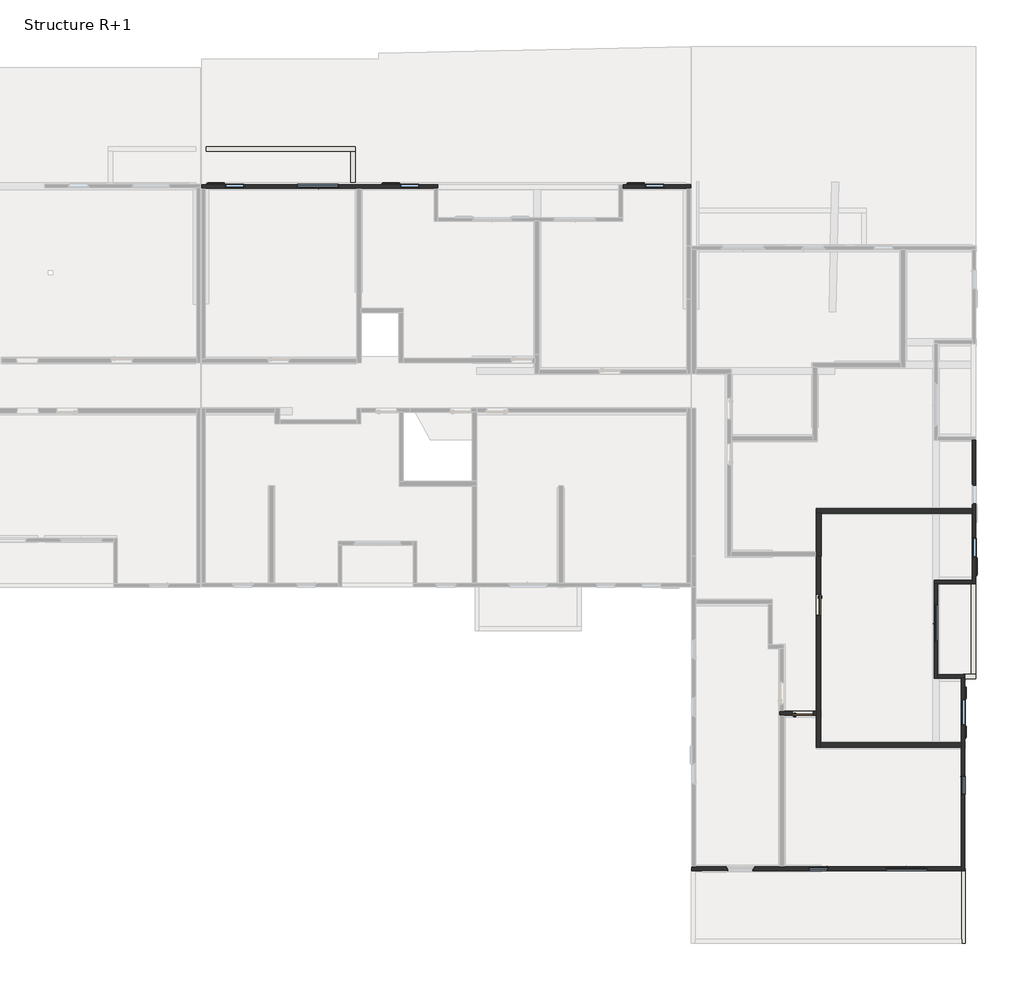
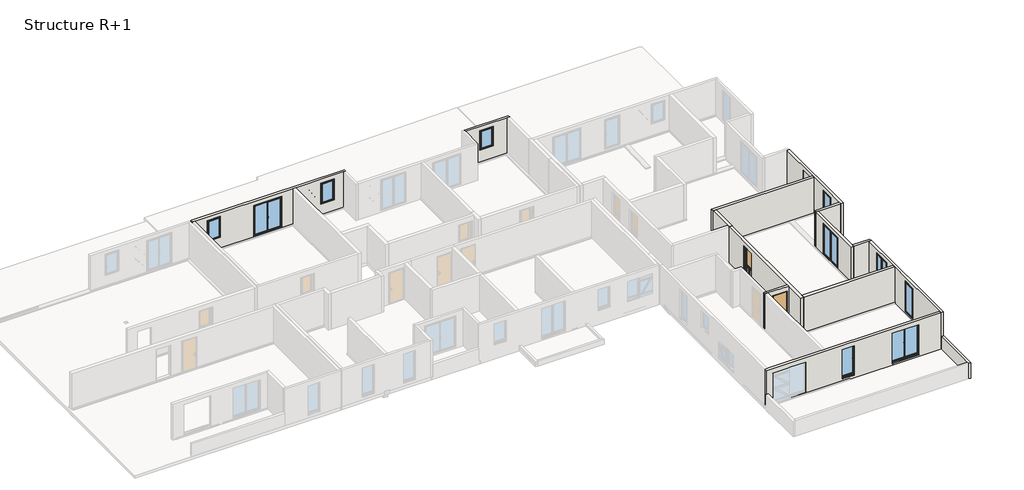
# One storey, part 7 of 11: 18 walls, 10 windows, 2 doors.
"""IFC4 building model written with IfcOpenShell, lengths in millimetres."""

from ifc_helpers import new_model, si_unit, frame, origin, place, context, project, spatial, polyline, outline, extrude, faceted_brep, transform, mapped, element, save
from components import door_d45fdbb8, door_280daffa, window_6b6e24a2, window_f6eb430b, window_2f04f91e, window_595b25a0, window_0_80m_x_2_05m_30132c93, window_0_80m_x_2_15m_73fb6ae2, window_1_60m_x_2_15m_1bfb613b, window_1_80m_x_2_15m_7d3a4370

model = new_model("IFC4")

# Units and contexts
model_context = context("Model", 3, world=origin())
ifc_project = project(units=[si_unit("LENGTHUNIT", "METRE", prefix="MILLI")], contexts=[model_context])

# Site, building, storey
site = spatial("IfcSite", under=ifc_project)
building = spatial("IfcBuilding", under=site)
storey = spatial("IfcBuildingStorey", under=building, Name="Structure R+1", Elevation=3320.0)

# Doors
placement = place(None, origin())
door_shape = door_d45fdbb8(model_context)
element("IfcDoor", 1, ObjectType="Entrée (avec angle d'ouverture) : PP Avec moulures (0.90 m x 2.15 m)", at=placement, inside=storey, context=model_context, shape_type="MappedRepresentation", body=[
    mapped(door_shape, transform((64210.298274, 8915.43291, 3320.0), x_axis=(1.0, 0.0, 0.0), y_axis=(0.0, 1.0, 0.0), z_axis=(0.0, 0.0, 1.0))),
])
door_2_shape = door_280daffa(model_context)
element("IfcDoor", 2, ObjectType="Entrée (avec angle d'ouverture) : PP Avec moulures (0.90 m x 2.15 m)", at=placement, inside=storey, context=model_context, shape_type="MappedRepresentation", body=[
    mapped(door_2_shape, transform((64902.3590475, 13654.7381719, 3320.0), x_axis=(0.0, -1.0, 0.0), y_axis=(1.0, 0.0, 0.0), z_axis=(0.0, 0.0, 1.0))),
])

# Walls
element("IfcWall", 3, ObjectType="Ext. Voile BA 16 + 2 + 2", at=placement, inside=storey, context=model_context, shape_type="Brep", body=[
    faceted_brep([(71177.0281909, -1157.3118451, 4130.0), (71177.0281909, -997.3118451, 4130.0), (71177.0281909, 2024.0269927, 4130.0), (71177.0281909, 2024.0269927, 3230.0), (71177.0281909, -997.3118451, 3230.0), (71177.0281909, -1137.3140034, 3230.0), (71177.0281909, -1137.3140034, 3030.0), (71177.0281909, -1157.3118451, 3030.0), (71337.0281909, -1157.3118451, 3030.0), (71337.0281909, 2104.0269927, 3030.0), (71337.0281909, 2104.0269927, 3230.0), (71337.0281909, 2024.0269927, 3230.0), (71337.0281909, 2024.0269927, 4130.0), (71337.0281909, -1157.3118451, 4130.0), (71317.0236897, -1137.3140034, 3030.0), (71317.0236897, 2104.0269927, 3030.0), (71317.0236897, 2024.0269927, 3230.0), (71317.0236897, -1137.3140034, 3230.0), (71317.0236897, 2104.0269927, 3230.0)], [[[0, 1, 2, 3, 4, 5, 6, 7]], [[8, 9, 10, 11, 12, 13]], [[9, 8, 7, 6, 14, 15]], [[2, 1, 0, 13, 12]], [[0, 7, 8, 13]], [[16, 17, 5, 4, 3]], [[14, 17, 16, 18, 15]], [[17, 14, 6, 5]], [[10, 9, 15, 18]], [[11, 10, 18, 16]], [[2, 12, 11, 16, 3]]]),
])
element("IfcWall", 4, ObjectType="Ext. Voile BA 16 + Isolant 120", at=placement, inside=storey, context=model_context, shape_type="Brep", body=[
    faceted_brep([(37868.7313075, 31927.4960094, 5830.0), (37868.7313075, 31927.4960094, 3230.0), (38028.7313075, 31927.4960094, 3230.0), (44657.3927707, 31927.4960094, 3230.0), (44857.3927707, 31927.4960094, 3230.0), (48060.3941376, 31927.4960094, 3230.0), (48220.3941376, 31927.4960094, 3230.0), (48220.3941376, 31927.4960094, 5830.0), (48140.3941376, 31927.4960094, 5830.0), (48060.3941376, 31927.4960094, 5830.0), (44857.3927707, 31927.4960094, 5830.0), (44657.3927707, 31927.4960094, 5830.0), (38028.7313075, 31927.4960094, 5830.0), (37888.6832806, 31927.4960094, 5830.0), (43907.3927707, 31927.4960094, 3355.0), (42007.3927707, 31927.4960094, 3355.0), (42007.3927707, 31927.4960094, 5555.0), (43907.3927707, 31927.4960094, 5555.0), (39769.4832806, 31927.4960094, 4055.0), (38869.4832806, 31927.4960094, 4055.0), (38869.4832806, 31927.4960094, 5555.0), (39769.4832806, 31927.4960094, 5555.0), (47440.760924, 31927.4960094, 4055.0), (46540.760924, 31927.4960094, 4055.0), (46540.760924, 31927.4960094, 5555.0), (47440.760924, 31927.4960094, 5555.0), (37868.7313075, 32087.4960094, 3230.0), (37868.7313075, 32087.4960094, 3330.0), (37868.7313075, 32087.4960094, 5830.0), (37888.6832806, 32087.4960094, 5830.0), (48140.3941376, 32087.4960094, 5830.0), (48220.3941376, 32087.4960094, 5830.0), (48220.3941376, 32087.4960094, 3380.0), (48220.3941376, 32087.4960094, 3230.0), (42057.3927707, 32087.4960094, 5505.0), (42057.3927707, 32087.4960094, 3346.5916612), (43857.3927707, 32087.4960094, 3346.5916612), (43857.3927707, 32087.4960094, 5505.0), (39719.4832806, 32087.4960094, 3975.0), (39719.4832806, 32087.4960094, 5505.0), (38919.4832806, 32087.4960094, 5505.0), (38919.4832806, 32087.4960094, 3975.0), (47390.760924, 32087.4960094, 3975.0), (47390.760924, 32087.4960094, 5505.0), (46590.760924, 32087.4960094, 5505.0), (46590.760924, 32087.4960094, 3975.0), (42057.3927707, 32007.4960094, 3355.0), (42057.3927707, 32027.4960094, 5505.0), (42057.3927707, 32027.4960094, 3355.0), (43857.3927707, 32007.4960094, 3355.0), (43857.3927707, 32027.4960094, 3355.0), (43857.3927707, 32027.4960094, 5505.0), (42047.3927707, 32027.4960094, 3355.0), (42047.3927707, 31977.4960094, 3355.0), (42007.3927707, 31977.4960094, 3355.0), (43907.3927707, 31977.4960094, 3355.0), (43867.3927707, 31977.4960094, 3355.0), (43867.3927707, 32027.4960094, 3355.0), (42007.3927707, 31977.4960094, 5555.0), (42047.3927707, 31977.4960094, 5515.0), (43867.3927707, 31977.4960094, 5515.0), (43907.3927707, 31977.4960094, 5555.0), (42047.3927707, 32027.4960094, 5515.0), (43867.3927707, 32027.4960094, 5515.0), (39719.4832806, 32007.4960094, 4055.0), (39719.4832806, 32027.4960094, 4055.0), (39719.4832806, 32027.4960094, 5505.0), (39719.4832806, 32007.4960094, 3975.0), (38919.4832806, 32007.4960094, 3975.0), (38919.4832806, 32027.4960094, 5505.0), (38919.4832806, 32027.4960094, 4055.0), (38919.4832806, 32007.4960094, 4055.0), (38909.4832806, 32027.4960094, 4055.0), (38909.4832806, 31977.4960094, 4055.0), (38869.4832806, 31977.4960094, 4055.0), (39769.4832806, 31977.4960094, 4055.0), (39729.4832806, 31977.4960094, 4055.0), (39729.4832806, 32027.4960094, 4055.0), (39769.4832806, 31977.4960094, 5555.0), (38869.4832806, 31977.4960094, 5555.0), (38909.4832806, 31977.4960094, 5515.0), (39729.4832806, 31977.4960094, 5515.0), (39729.4832806, 32027.4960094, 5515.0), (38909.4832806, 32027.4960094, 5515.0), (47390.760924, 32007.4960094, 4055.0), (47390.760924, 32027.4960094, 4055.0), (47390.760924, 32027.4960094, 5505.0), (47390.760924, 32007.4960094, 3975.0), (46590.760924, 32007.4960094, 3975.0), (46590.760924, 32027.4960094, 5505.0), (46590.760924, 32027.4960094, 4055.0), (46590.760924, 32007.4960094, 4055.0), (46580.760924, 32027.4960094, 4055.0), (46580.760924, 31977.4960094, 4055.0), (46540.760924, 31977.4960094, 4055.0), (47440.760924, 31977.4960094, 4055.0), (47400.760924, 31977.4960094, 4055.0), (47400.760924, 32027.4960094, 4055.0), (47440.760924, 31977.4960094, 5555.0), (46540.760924, 31977.4960094, 5555.0), (46580.760924, 31977.4960094, 5515.0), (47400.760924, 31977.4960094, 5515.0), (47400.760924, 32027.4960094, 5515.0), (46580.760924, 32027.4960094, 5515.0)], [[[0, 1, 2, 3, 4, 5, 6, 7, 8, 9, 10, 11, 12, 13], [14, 15, 16, 17], [18, 19, 20, 21], [22, 23, 24, 25]], [[26, 27, 28, 29, 30, 31, 32, 33], [34, 35, 36, 37], [38, 39, 40, 41], [42, 43, 44, 45]], [[6, 5, 4, 3, 2, 1, 26, 33]], [[0, 13, 12, 11, 10, 9, 8, 7, 31, 30, 29, 28]], [[46, 35, 34, 47, 48]], [[36, 49, 50, 51, 37]], [[46, 49, 36, 35]], [[34, 37, 51, 47]], [[49, 46, 48, 52, 53, 54, 15, 14, 55, 56, 57, 50]], [[15, 54, 58, 16]], [[54, 53, 59, 60, 56, 55, 61, 58]], [[53, 52, 62, 59]], [[52, 48, 47, 51, 50, 57, 63, 62]], [[16, 58, 61, 17]], [[60, 59, 62, 63]], [[61, 55, 14, 17]], [[56, 60, 63, 57]], [[64, 65, 66, 39, 38, 67]], [[68, 41, 40, 69, 70, 71]], [[67, 38, 41, 68]], [[67, 68, 71, 64]], [[39, 66, 69, 40]], [[71, 70, 72, 73, 74, 19, 18, 75, 76, 77, 65, 64]], [[18, 21, 78, 75]], [[75, 78, 79, 74, 73, 80, 81, 76]], [[76, 81, 82, 77]], [[77, 82, 83, 72, 70, 69, 66, 65]], [[21, 20, 79, 78]], [[80, 83, 82, 81]], [[79, 20, 19, 74]], [[73, 72, 83, 80]], [[84, 85, 86, 43, 42, 87]], [[88, 45, 44, 89, 90, 91]], [[87, 42, 45, 88]], [[87, 88, 91, 84]], [[43, 86, 89, 44]], [[91, 90, 92, 93, 94, 23, 22, 95, 96, 97, 85, 84]], [[22, 25, 98, 95]], [[95, 98, 99, 94, 93, 100, 101, 96]], [[96, 101, 102, 97]], [[97, 102, 103, 92, 90, 89, 86, 85]], [[25, 24, 99, 98]], [[100, 103, 102, 101]], [[99, 24, 23, 94]], [[93, 92, 103, 100]], [[0, 28, 27, 26, 1]], [[6, 33, 32, 31, 7]]]),
])
element("IfcWall", 5, ObjectType="Ext. Voile BA 16 + Isolant 120", at=placement, inside=storey, context=model_context, shape_type="Brep", body=[
    faceted_brep([(56314.3903552, 31927.496363, 5830.0), (56314.3903552, 31927.496363, 3320.0), (56314.3903552, 31927.496363, 3230.0), (59132.9661689, 31927.496363, 3230.0), (59292.9661689, 31927.496363, 3230.0), (59292.9661689, 31927.496363, 5830.0), (59132.9661689, 31927.496363, 5830.0), (58173.6782621, 31927.496363, 4155.0), (57273.6782621, 31927.496363, 4155.0), (57273.6782621, 31927.496363, 5555.0), (58173.6782621, 31927.496363, 5555.0), (56314.3903552, 32087.496363, 3230.0), (56314.3903552, 32087.496363, 5830.0), (59292.9661689, 32087.496363, 5830.0), (59292.9661689, 32087.496363, 3230.0), (58123.6782621, 32087.496363, 4075.0), (58123.6782621, 32087.496363, 5505.0), (57323.6782621, 32087.496363, 5505.0), (57323.6782621, 32087.496363, 4075.0), (58123.6782621, 32007.496363, 4155.0), (58123.6782621, 32027.496363, 4155.0), (58123.6782621, 32027.496363, 5505.0), (58123.6782621, 32007.496363, 4075.0), (57323.6782621, 32007.496363, 4075.0), (57323.6782621, 32027.496363, 5505.0), (57323.6782621, 32027.496363, 4155.0), (57323.6782621, 32007.496363, 4155.0), (57313.6782621, 32027.496363, 4155.0), (57313.6782621, 31977.496363, 4155.0), (57273.6782621, 31977.496363, 4155.0), (58173.6782621, 31977.496363, 4155.0), (58133.6782621, 31977.496363, 4155.0), (58133.6782621, 32027.496363, 4155.0), (58173.6782621, 31977.496363, 5555.0), (57273.6782621, 31977.496363, 5555.0), (57313.6782621, 31977.496363, 5515.0), (58133.6782621, 31977.496363, 5515.0), (58133.6782621, 32027.496363, 5515.0), (57313.6782621, 32027.496363, 5515.0)], [[[0, 1, 2, 3, 4, 5, 6], [7, 8, 9, 10]], [[11, 12, 13, 14], [15, 16, 17, 18]], [[4, 3, 2, 11, 14]], [[0, 6, 5, 13, 12]], [[5, 4, 14, 13]], [[19, 20, 21, 16, 15, 22]], [[23, 18, 17, 24, 25, 26]], [[22, 15, 18, 23]], [[22, 23, 26, 19]], [[16, 21, 24, 17]], [[26, 25, 27, 28, 29, 8, 7, 30, 31, 32, 20, 19]], [[7, 10, 33, 30]], [[30, 33, 34, 29, 28, 35, 36, 31]], [[31, 36, 37, 32]], [[32, 37, 38, 27, 25, 24, 21, 20]], [[10, 9, 34, 33]], [[35, 38, 37, 36]], [[34, 9, 8, 29]], [[28, 27, 38, 35]], [[0, 12, 11, 2, 1]]]),
])
element("IfcWall", 6, ObjectType="Ext. Voile BA 16 + Isolant 120", at=placement, inside=storey, context=model_context, shape_type="Brep", body=[
    faceted_brep([(71638.4984496, 14581.6515349, 5830.0), (71638.4984496, 14741.6515349, 5830.0), (71638.4984496, 17681.6268796, 5830.0), (71638.4984496, 17881.6268796, 5830.0), (71638.4984496, 20874.8947764, 5830.0), (71638.4984496, 20874.8947764, 3230.0), (71638.4984496, 17881.6268796, 3230.0), (71638.4984496, 17681.6268796, 3230.0), (71638.4984496, 14741.6515349, 3230.0), (71638.4984496, 14581.6515349, 3230.0), (71638.4984496, 18054.9645363, 4155.0), (71638.4984496, 18954.9645363, 4155.0), (71638.4984496, 18954.9645363, 5555.0), (71638.4984496, 18054.9645363, 5555.0), (71638.4984496, 15731.6515349, 4155.0), (71638.4984496, 16631.6515349, 4155.0), (71638.4984496, 16631.6515349, 5555.0), (71638.4984496, 15731.6515349, 5555.0), (71798.4984496, 14661.6515349, 3030.0), (71798.4984496, 20954.8947764, 3030.0), (71798.4984496, 20954.8947764, 3230.0), (71798.4984496, 20874.8947764, 3230.0), (71798.4984496, 20874.8947764, 5830.0), (71798.4984496, 14581.6515349, 5830.0), (71798.4984496, 14581.6515349, 3380.0), (71798.4984496, 14581.6515349, 3230.0), (71798.4984496, 14661.6515349, 3230.0), (71798.4984496, 18904.9645363, 5505.0), (71798.4984496, 18904.9645363, 4075.0), (71798.4984496, 18104.9645363, 4075.0), (71798.4984496, 18104.9645363, 5505.0), (71798.4984496, 16581.6515349, 5505.0), (71798.4984496, 16581.6515349, 4075.0), (71798.4984496, 15781.6515349, 4075.0), (71798.4984496, 15781.6515349, 5505.0), (71794.898036, 14661.6515349, 3030.0), (71794.898036, 20954.8947764, 3030.0), (71718.4984496, 18904.9645363, 4155.0), (71718.4984496, 18904.9645363, 4075.0), (71738.4984496, 18904.9645363, 5505.0), (71738.4984496, 18904.9645363, 4155.0), (71718.4984496, 18104.9645363, 4075.0), (71718.4984496, 18104.9645363, 4155.0), (71738.4984496, 18104.9645363, 4155.0), (71738.4984496, 18104.9645363, 5505.0), (71738.4984496, 18914.9645363, 4155.0), (71688.4984496, 18914.9645363, 4155.0), (71688.4984496, 18954.9645363, 4155.0), (71688.4984496, 18054.9645363, 4155.0), (71688.4984496, 18094.9645363, 4155.0), (71738.4984496, 18094.9645363, 4155.0), (71688.4984496, 18954.9645363, 5555.0), (71688.4984496, 18914.9645363, 5515.0), (71688.4984496, 18094.9645363, 5515.0), (71688.4984496, 18054.9645363, 5555.0), (71738.4984496, 18914.9645363, 5515.0), (71738.4984496, 18094.9645363, 5515.0), (71718.4984496, 16581.6515349, 4155.0), (71718.4984496, 16581.6515349, 4075.0), (71738.4984496, 16581.6515349, 5505.0), (71738.4984496, 16581.6515349, 4155.0), (71718.4984496, 15781.6515349, 4075.0), (71718.4984496, 15781.6515349, 4155.0), (71738.4984496, 15781.6515349, 4155.0), (71738.4984496, 15781.6515349, 5505.0), (71738.4984496, 16591.6515349, 4155.0), (71688.4984496, 16591.6515349, 4155.0), (71688.4984496, 16631.6515349, 4155.0), (71688.4984496, 15731.6515349, 4155.0), (71688.4984496, 15771.6515349, 4155.0), (71738.4984496, 15771.6515349, 4155.0), (71688.4984496, 16631.6515349, 5555.0), (71688.4984496, 16591.6515349, 5515.0), (71688.4984496, 15771.6515349, 5515.0), (71688.4984496, 15731.6515349, 5555.0), (71738.4984496, 16591.6515349, 5515.0), (71738.4984496, 15771.6515349, 5515.0), (71794.898036, 20954.8947764, 3230.0), (71794.898036, 20874.8947764, 3230.0), (71794.898036, 14661.6515349, 3230.0), (71794.898036, 14581.6515349, 3230.0)], [[[0, 1, 2, 3, 4, 5, 6, 7, 8, 9], [10, 11, 12, 13], [14, 15, 16, 17]], [[18, 19, 20, 21, 22, 23, 24, 25, 26], [27, 28, 29, 30], [31, 32, 33, 34]], [[19, 18, 35, 36]], [[4, 3, 2, 1, 0, 23, 22]], [[37, 38, 28, 27, 39, 40]], [[41, 42, 43, 44, 30, 29]], [[28, 38, 41, 29]], [[38, 37, 42, 41]], [[39, 27, 30, 44]], [[37, 40, 45, 46, 47, 11, 10, 48, 49, 50, 43, 42]], [[11, 47, 51, 12]], [[47, 46, 52, 53, 49, 48, 54, 51]], [[46, 45, 55, 52]], [[40, 39, 44, 43, 50, 56, 55, 45]], [[12, 51, 54, 13]], [[53, 52, 55, 56]], [[48, 10, 13, 54]], [[50, 49, 53, 56]], [[57, 58, 32, 31, 59, 60]], [[61, 62, 63, 64, 34, 33]], [[32, 58, 61, 33]], [[58, 57, 62, 61]], [[59, 31, 34, 64]], [[57, 60, 65, 66, 67, 15, 14, 68, 69, 70, 63, 62]], [[15, 67, 71, 16]], [[67, 66, 72, 73, 69, 68, 74, 71]], [[66, 65, 75, 72]], [[60, 59, 64, 63, 70, 76, 75, 65]], [[16, 71, 74, 17]], [[73, 72, 75, 76]], [[68, 14, 17, 74]], [[70, 69, 73, 76]], [[20, 19, 36, 77]], [[21, 20, 77, 78]], [[18, 26, 79, 35]], [[5, 78, 79, 26, 25, 80, 9, 8, 7, 6]], [[23, 0, 9, 80, 25, 24]], [[79, 78, 77, 36, 35]], [[4, 22, 21, 78, 5]]]),
])
element("IfcWall", 7, ObjectType="Ext. Voile BA 16 + Isolant 120", at=placement, inside=storey, context=model_context, shape_type="Brep", body=[
    faceted_brep([(71638.4984496, 14741.6515349, 5830.0), (71638.4984496, 14741.6515349, 3230.0), (70200.3173481, 14741.6515349, 3230.0), (69965.320202, 14741.6515349, 3230.0), (69965.320202, 14741.6515349, 3320.0), (69965.320202, 14741.6515349, 5830.0), (71638.4984496, 14581.6515349, 3230.0), (71638.4984496, 14581.6515349, 5830.0), (70125.320202, 14581.6515349, 5830.0), (69965.320202, 14581.6515349, 5830.0), (69965.320202, 14581.6515349, 3230.0), (70125.320202, 14581.6515349, 3230.0), (70200.3173481, 14581.6515349, 3230.0), (71598.4984496, 14581.6515349, 3230.0)], [[[0, 1, 2, 3, 4, 5]], [[6, 7, 8, 9, 10, 11, 12, 13]], [[3, 2, 1, 6, 13, 12, 11, 10]], [[0, 5, 9, 8, 7]], [[5, 4, 3, 10, 9]], [[0, 7, 6, 1]]]),
])
element("IfcWall", 8, ObjectType="Ext. Voile BA 16 + Isolant 120", at=placement, inside=storey, context=model_context, shape_type="Brep", body=[
    faceted_brep([(69965.320202, 14581.6515349, 3230.0), (69965.320202, 10444.6162149, 3230.0), (69965.320202, 10444.6162149, 3320.0), (69965.320202, 10444.6162149, 5830.0), (69965.320202, 14581.6515349, 5830.0), (69965.320202, 12016.6515349, 3355.0), (69965.320202, 13716.6515349, 3355.0), (69965.320202, 13716.6515349, 5555.0), (69965.320202, 12016.6515349, 5555.0), (70125.320202, 14581.6515349, 3230.0), (70125.320202, 14581.6515349, 3320.0), (70125.320202, 14581.6515349, 5830.0), (70125.320202, 10604.6162149, 5830.0), (70125.320202, 10444.6162149, 5830.0), (70125.320202, 10444.6162149, 3230.0), (70125.320202, 10604.6162149, 3230.0), (70125.320202, 13666.6515349, 5505.0), (70125.320202, 13666.6515349, 3346.5916612), (70125.320202, 12066.6515349, 3346.5916612), (70125.320202, 12066.6515349, 5505.0), (70045.320202, 13666.6515349, 3355.0), (70065.320202, 13666.6515349, 5505.0), (70065.320202, 13666.6515349, 3355.0), (70045.320202, 12066.6515349, 3355.0), (70065.320202, 12066.6515349, 3355.0), (70065.320202, 12066.6515349, 5505.0), (70065.320202, 13676.6515349, 3355.0), (70015.320202, 13676.6515349, 3355.0), (70015.320202, 13716.6515349, 3355.0), (70015.320202, 12016.6515349, 3355.0), (70015.320202, 12056.6515349, 3355.0), (70065.320202, 12056.6515349, 3355.0), (70015.320202, 13716.6515349, 5555.0), (70015.320202, 13676.6515349, 5515.0), (70015.320202, 12056.6515349, 5515.0), (70015.320202, 12016.6515349, 5555.0), (70065.320202, 13676.6515349, 5515.0), (70065.320202, 12056.6515349, 5515.0)], [[[0, 1, 2, 3, 4], [5, 6, 7, 8]], [[9, 10, 11, 12, 13, 14, 15], [16, 17, 18, 19]], [[1, 0, 9, 15, 14]], [[4, 3, 13, 12, 11]], [[0, 4, 11, 10, 9]], [[3, 2, 1, 14, 13]], [[20, 17, 16, 21, 22]], [[18, 23, 24, 25, 19]], [[20, 23, 18, 17]], [[16, 19, 25, 21]], [[23, 20, 22, 26, 27, 28, 6, 5, 29, 30, 31, 24]], [[6, 28, 32, 7]], [[28, 27, 33, 34, 30, 29, 35, 32]], [[27, 26, 36, 33]], [[26, 22, 21, 25, 24, 31, 37, 36]], [[7, 32, 35, 8]], [[34, 33, 36, 37]], [[35, 29, 5, 8]], [[30, 34, 37, 31]]]),
])
element("IfcWall", 9, ObjectType="Ext. Voile BA 16 + Isolant 120", at=placement, inside=storey, context=model_context, shape_type="Brep", body=[
    faceted_brep([(70125.320202, 10444.6162149, 3230.0), (70200.3173481, 10444.6162149, 3230.0), (71157.0281909, 10444.6162149, 3230.0), (71237.0281909, 10444.6162149, 3230.0), (71237.0281909, 10444.6162149, 3380.0), (71317.0281909, 10444.6162149, 3380.0), (71317.0281909, 10444.6162149, 5830.0), (71157.0281909, 10444.6162149, 5830.0), (70125.320202, 10444.6162149, 5830.0), (70125.320202, 10604.6162149, 3230.0), (70125.320202, 10604.6162149, 3320.0), (70125.320202, 10604.6162149, 5830.0), (71317.0281909, 10604.6162149, 5830.0), (71317.0281909, 10604.6162149, 3380.0), (71237.0281909, 10604.6162149, 3380.0), (71237.0281909, 10604.6162149, 3230.0), (70200.3173481, 10604.6162149, 3230.0)], [[[0, 1, 2, 3, 4, 5, 6, 7, 8]], [[9, 10, 11, 12, 13, 14, 15, 16]], [[3, 2, 1, 0, 9, 16, 15]], [[8, 7, 6, 12, 11]], [[0, 8, 11, 10, 9]], [[4, 3, 15, 14]], [[13, 5, 4, 14]], [[6, 5, 13, 12]]]),
])
element("IfcWall", 10, ObjectType="Ext. Voile BA 16 + Isolant 120", at=placement, inside=storey, context=model_context, shape_type="Brep", body=[
    faceted_brep([(71157.0281909, 2024.0269927, 5830.0), (71157.0281909, 2184.0269927, 5830.0), (71157.0281909, 7415.5919516, 5830.0), (71157.0281909, 7615.5919516, 5830.0), (71157.0281909, 10444.6162149, 5830.0), (71157.0281909, 10444.6162149, 3380.0), (71157.0281909, 10444.6162149, 3230.0), (71157.0281909, 10424.6162149, 3230.0), (71157.0281909, 7615.5919516, 3230.0), (71157.0281909, 7415.5919516, 3230.0), (71157.0281909, 2184.0269927, 3230.0), (71157.0281909, 2024.0269927, 3230.0), (71157.0281909, 8355.2240545, 4055.0), (71157.0281909, 9555.2240545, 4055.0), (71157.0281909, 9555.2240545, 5555.0), (71157.0281909, 8355.2240545, 5555.0), (71157.0281909, 5315.5919516, 3355.0), (71157.0281909, 6215.5919516, 3355.0), (71157.0281909, 6215.5919516, 5555.0), (71157.0281909, 5315.5919516, 5555.0), (71317.0281909, 10444.6162149, 5830.0), (71317.0281909, 2024.0269927, 5830.0), (71317.0281909, 2024.0269927, 3230.0), (71317.0281909, 10424.6162149, 3230.0), (71317.0281909, 10424.6162149, 3380.0), (71317.0281909, 10444.6162149, 3380.0), (71317.0281909, 9505.2240545, 5505.0), (71317.0281909, 9505.2240545, 3975.0), (71317.0281909, 8405.2240545, 3975.0), (71317.0281909, 8405.2240545, 5505.0), (71317.0281909, 6165.5919516, 5505.0), (71317.0281909, 6165.5919516, 3346.5916612), (71317.0281909, 5365.5919516, 3346.5916612), (71317.0281909, 5365.5919516, 5505.0), (71237.0281909, 9505.2240545, 4055.0), (71237.0281909, 9505.2240545, 3975.0), (71257.0281909, 9505.2240545, 5505.0), (71257.0281909, 9505.2240545, 4055.0), (71237.0281909, 8405.2240545, 3975.0), (71237.0281909, 8405.2240545, 4055.0), (71257.0281909, 8405.2240545, 4055.0), (71257.0281909, 8405.2240545, 5505.0), (71257.0281909, 9515.2240545, 4055.0), (71207.0281909, 9515.2240545, 4055.0), (71207.0281909, 9555.2240545, 4055.0), (71207.0281909, 8355.2240545, 4055.0), (71207.0281909, 8395.2240545, 4055.0), (71257.0281909, 8395.2240545, 4055.0), (71207.0281909, 9555.2240545, 5555.0), (71207.0281909, 9515.2240545, 5515.0), (71207.0281909, 8395.2240545, 5515.0), (71207.0281909, 8355.2240545, 5555.0), (71257.0281909, 9515.2240545, 5515.0), (71257.0281909, 8395.2240545, 5515.0), (71237.0281909, 6165.5919516, 3355.0), (71257.0281909, 6165.5919516, 5505.0), (71257.0281909, 6165.5919516, 3355.0), (71237.0281909, 5365.5919516, 3355.0), (71257.0281909, 5365.5919516, 3355.0), (71257.0281909, 5365.5919516, 5505.0), (71257.0281909, 6175.5919516, 3355.0), (71207.0281909, 6175.5919516, 3355.0), (71207.0281909, 6215.5919516, 3355.0), (71207.0281909, 5315.5919516, 3355.0), (71207.0281909, 5355.5919516, 3355.0), (71257.0281909, 5355.5919516, 3355.0), (71207.0281909, 6215.5919516, 5555.0), (71207.0281909, 6175.5919516, 5515.0), (71207.0281909, 5355.5919516, 5515.0), (71207.0281909, 5315.5919516, 5555.0), (71257.0281909, 6175.5919516, 5515.0), (71257.0281909, 5355.5919516, 5515.0), (71237.0281909, 10444.6162149, 3230.0), (71237.0281909, 10424.6162149, 3230.0), (71177.0281909, 2024.0269927, 3230.0), (71237.0281909, 10424.6162149, 3380.0), (71237.0281909, 10444.6162149, 3380.0)], [[[0, 1, 2, 3, 4, 5, 6, 7, 8, 9, 10, 11], [12, 13, 14, 15], [16, 17, 18, 19]], [[20, 21, 22, 23, 24, 25], [26, 27, 28, 29], [30, 31, 32, 33]], [[4, 3, 2, 1, 0, 21, 20]], [[34, 35, 27, 26, 36, 37]], [[38, 39, 40, 41, 29, 28]], [[27, 35, 38, 28]], [[35, 34, 39, 38]], [[36, 26, 29, 41]], [[34, 37, 42, 43, 44, 13, 12, 45, 46, 47, 40, 39]], [[13, 44, 48, 14]], [[44, 43, 49, 50, 46, 45, 51, 48]], [[43, 42, 52, 49]], [[37, 36, 41, 40, 47, 53, 52, 42]], [[14, 48, 51, 15]], [[50, 49, 52, 53]], [[45, 12, 15, 51]], [[47, 46, 50, 53]], [[54, 31, 30, 55, 56]], [[32, 57, 58, 59, 33]], [[31, 54, 57, 32]], [[55, 30, 33, 59]], [[54, 56, 60, 61, 62, 17, 16, 63, 64, 65, 58, 57]], [[17, 62, 66, 18]], [[62, 61, 67, 68, 64, 63, 69, 66]], [[61, 60, 70, 67]], [[56, 55, 59, 58, 65, 71, 70, 60]], [[18, 66, 69, 19]], [[68, 67, 70, 71]], [[63, 16, 19, 69]], [[65, 64, 68, 71]], [[6, 72, 73, 23, 22, 74, 11, 10, 9, 8, 7]], [[21, 0, 11, 74, 22]], [[25, 24, 75, 76]], [[6, 5, 76, 72]], [[76, 75, 73, 72]], [[24, 23, 73, 75]], [[4, 20, 25, 76, 5]]]),
])
element("IfcWall", 11, ObjectType="Ext. Voile BA 16 + Isolant 120", at=placement, inside=storey, context=model_context, shape_type="Brep", body=[
    faceted_brep([(71157.0281909, 2184.0269927, 3230.0), (63397.9323598, 2184.0269927, 3230.0), (63197.9323598, 2184.0269927, 3230.0), (59512.9059955, 2184.0269927, 3230.0), (59352.9059955, 2184.0269927, 3230.0), (59352.9059955, 2184.0269927, 5830.0), (59512.9059955, 2184.0269927, 5830.0), (63197.9323598, 2184.0269927, 5830.0), (63397.9323598, 2184.0269927, 5830.0), (71157.0281909, 2184.0269927, 5830.0), (67822.0281909, 2184.0269927, 3355.0), (69722.0281909, 2184.0269927, 3355.0), (69722.0281909, 2184.0269927, 5555.0), (67822.0281909, 2184.0269927, 5555.0), (64447.9323598, 2184.0269927, 3455.0), (65347.9323598, 2184.0269927, 3455.0), (65347.9323598, 2184.0269927, 5555.0), (64447.9323598, 2184.0269927, 5555.0), (60928.3161909, 2184.0269927, 3355.0), (62028.3161909, 2184.0269927, 3355.0), (62078.3161909, 2184.0269927, 3355.0), (62078.3161909, 2184.0269927, 5555.0), (60878.3161909, 2184.0269927, 5555.0), (60878.3161909, 2184.0269927, 3355.0), (59352.9059955, 2024.0269927, 3230.0), (59492.9059955, 2024.0269927, 3230.0), (71157.0281909, 2024.0269927, 3230.0), (71157.0281909, 2024.0269927, 5830.0), (59352.9059955, 2024.0269927, 5830.0), (69672.0281909, 2024.0269927, 5505.0), (69672.0281909, 2024.0269927, 3346.5916612), (67872.0281909, 2024.0269927, 3346.5916612), (67872.0281909, 2024.0269927, 5505.0), (65297.9323598, 2024.0269927, 5505.0), (65297.9323598, 2024.0269927, 3446.5916612), (64497.9323598, 2024.0269927, 3446.5916612), (64497.9323598, 2024.0269927, 5505.0), (62028.3161909, 2024.0269927, 5505.0), (62028.3161909, 2024.0269927, 3346.5916612), (60928.3161909, 2024.0269927, 3346.5916612), (60928.3161909, 2024.0269927, 5505.0), (59352.9059955, 2104.0269927, 3230.0), (69672.0281909, 2104.0269927, 3355.0), (69672.0281909, 2084.0269927, 5505.0), (69672.0281909, 2084.0269927, 3355.0), (67872.0281909, 2104.0269927, 3355.0), (67872.0281909, 2084.0269927, 3355.0), (67872.0281909, 2084.0269927, 5505.0), (69682.0281909, 2084.0269927, 3355.0), (69682.0281909, 2134.0269927, 3355.0), (69722.0281909, 2134.0269927, 3355.0), (67822.0281909, 2134.0269927, 3355.0), (67862.0281909, 2134.0269927, 3355.0), (67862.0281909, 2084.0269927, 3355.0), (69722.0281909, 2134.0269927, 5555.0), (69682.0281909, 2134.0269927, 5515.0), (67862.0281909, 2134.0269927, 5515.0), (67822.0281909, 2134.0269927, 5555.0), (69682.0281909, 2084.0269927, 5515.0), (67862.0281909, 2084.0269927, 5515.0), (65297.9323598, 2104.0269927, 3455.0), (65297.9323598, 2084.0269927, 5505.0), (65297.9323598, 2084.0269927, 3455.0), (64497.9323598, 2104.0269927, 3455.0), (64497.9323598, 2084.0269927, 3455.0), (64497.9323598, 2084.0269927, 5505.0), (65307.9323598, 2084.0269927, 3455.0), (65307.9323598, 2134.0269927, 3455.0), (65347.9323598, 2134.0269927, 3455.0), (64447.9323598, 2134.0269927, 3455.0), (64487.9323598, 2134.0269927, 3455.0), (64487.9323598, 2084.0269927, 3455.0), (65347.9323598, 2134.0269927, 5555.0), (65307.9323598, 2134.0269927, 5515.0), (64487.9323598, 2134.0269927, 5515.0), (64447.9323598, 2134.0269927, 5555.0), (65307.9323598, 2084.0269927, 5515.0), (64487.9323598, 2084.0269927, 5515.0), (62028.3161909, 2084.0269927, 5505.0), (62028.3161909, 2084.0269927, 3355.0), (62028.3161909, 2104.0269927, 3355.0), (60928.3161909, 2104.0269927, 3355.0), (60928.3161909, 2084.0269927, 3355.0), (60928.3161909, 2084.0269927, 5505.0), (62038.3161909, 2084.0269927, 3355.0), (62038.3161909, 2134.0269927, 3355.0), (62078.3161909, 2134.0269927, 3355.0), (60878.3161909, 2134.0269927, 3355.0), (60918.3161909, 2134.0269927, 3355.0), (60918.3161909, 2084.0269927, 3355.0), (62078.3161909, 2134.0269927, 5555.0), (60878.3161909, 2134.0269927, 5555.0), (62038.3161909, 2134.0269927, 5515.0), (60918.3161909, 2134.0269927, 5515.0), (62038.3161909, 2084.0269927, 5515.0), (60918.3161909, 2084.0269927, 5515.0)], [[[0, 1, 2, 3, 4, 5, 6, 7, 8, 9], [10, 11, 12, 13], [14, 15, 16, 17], [18, 19, 20, 21, 22, 23]], [[24, 25, 26, 27, 28], [29, 30, 31, 32], [33, 34, 35, 36], [37, 38, 39, 40]], [[4, 3, 2, 1, 0, 26, 25, 24, 41]], [[9, 8, 7, 6, 5, 28, 27]], [[42, 30, 29, 43, 44]], [[31, 45, 46, 47, 32]], [[30, 42, 45, 31]], [[43, 29, 32, 47]], [[42, 44, 48, 49, 50, 11, 10, 51, 52, 53, 46, 45]], [[11, 50, 54, 12]], [[50, 49, 55, 56, 52, 51, 57, 54]], [[49, 48, 58, 55]], [[44, 43, 47, 46, 53, 59, 58, 48]], [[12, 54, 57, 13]], [[56, 55, 58, 59]], [[51, 10, 13, 57]], [[53, 52, 56, 59]], [[60, 34, 33, 61, 62]], [[35, 63, 64, 65, 36]], [[34, 60, 63, 35]], [[61, 33, 36, 65]], [[60, 62, 66, 67, 68, 15, 14, 69, 70, 71, 64, 63]], [[15, 68, 72, 16]], [[68, 67, 73, 74, 70, 69, 75, 72]], [[67, 66, 76, 73]], [[62, 61, 65, 64, 71, 77, 76, 66]], [[16, 72, 75, 17]], [[74, 73, 76, 77]], [[69, 14, 17, 75]], [[71, 70, 74, 77]], [[78, 79, 80, 38, 37]], [[81, 82, 83, 40, 39]], [[80, 79, 84, 85, 86, 20, 19, 18, 23, 87, 88, 89, 82, 81]], [[83, 78, 37, 40]], [[80, 81, 39, 38]], [[20, 86, 90, 21]], [[88, 87, 91, 90, 86, 85, 92, 93]], [[85, 84, 94, 92]], [[79, 78, 83, 82, 89, 95, 94, 84]], [[21, 90, 91, 22]], [[93, 92, 94, 95]], [[87, 23, 22, 91]], [[89, 88, 93, 95]], [[4, 41, 24, 28, 5]], [[9, 27, 26, 0]]]),
])
element("IfcWall", 12, ObjectType="Ext. Voile BA 20", at=placement, inside=storey, context=model_context, shape_type="Brep", body=[
    faceted_brep([(71598.4984496, 10624.6162149, 3380.0), (71598.4984496, 14581.6515349, 3380.0), (71598.4984496, 14581.6515349, 3230.0), (71598.4984496, 10624.6162149, 3230.0), (71798.4984496, 10624.6162149, 3030.0), (71798.4984496, 14661.6515349, 3030.0), (71798.4984496, 14661.6515349, 3230.0), (71798.4984496, 14581.6515349, 3230.0), (71798.4984496, 14581.6515349, 3380.0), (71798.4984496, 10624.6162149, 3380.0), (71794.898036, 10624.6162149, 3030.0), (71794.898036, 14661.6515349, 3030.0), (71794.898036, 10624.6162149, 3230.0), (71794.898036, 14581.6515349, 3230.0), (71638.4984496, 14581.6515349, 3230.0), (71794.898036, 14661.6515349, 3230.0)], [[[0, 1, 2, 3]], [[4, 5, 6, 7, 8, 9]], [[5, 4, 10, 11]], [[1, 0, 9, 8]], [[4, 9, 0, 3, 12, 10]], [[13, 12, 3, 2, 14]], [[12, 13, 15, 11, 10]], [[6, 5, 11, 15]], [[7, 6, 15, 13]], [[1, 8, 7, 13, 14, 2]]]),
])
element("IfcWall", 13, ObjectType="Ext. Voile BA 20", at=placement, inside=storey, context=model_context, shape_type="Brep", body=[
    faceted_brep([(71157.0281909, 10424.6162149, 3030.0), (71798.4984496, 10424.6162149, 3030.0), (71798.4984496, 10424.6162149, 3380.0), (71317.0281909, 10424.6162149, 3380.0), (71237.0281909, 10424.6162149, 3380.0), (71237.0281909, 10424.6162149, 3230.0), (71157.0281909, 10424.6162149, 3230.0), (71157.0281909, 10624.6162149, 3030.0), (71157.0281909, 10624.6162149, 3230.0), (71237.0281909, 10624.6162149, 3230.0), (71237.0281909, 10624.6162149, 3380.0), (71598.4984496, 10624.6162149, 3380.0), (71798.4984496, 10624.6162149, 3380.0), (71798.4984496, 10624.6162149, 3030.0), (71794.898036, 10624.6162149, 3030.0), (71237.0281909, 10604.6162149, 3380.0), (71237.0281909, 10444.6162149, 3380.0), (71237.0281909, 10604.6162149, 3230.0), (71237.0281909, 10444.6162149, 3230.0), (71157.0281909, 10444.6162149, 3230.0)], [[[0, 1, 2, 3, 4, 5, 6]], [[7, 8, 9, 10, 11, 12, 13, 14]], [[1, 0, 7, 14, 13]], [[4, 3, 2, 12, 11, 10, 15, 16]], [[2, 1, 13, 12]], [[5, 4, 16, 15, 10, 9, 17, 18]], [[5, 18, 17, 9, 8, 19, 6]], [[0, 6, 19, 8, 7]]]),
])
element("IfcWall", 14, ObjectType="Voile BA 18 + 6 + 1", at=placement, inside=storey, context=model_context, shape_type="Brep", body=[
    faceted_brep([(64812.3590475, 15804.7366595, 3230.0), (64812.3590475, 9005.43291, 3230.0), (64812.3590475, 8825.43291, 3230.0), (64812.3590475, 7415.5919516, 3230.0), (64812.3590475, 7415.5919516, 5830.0), (64812.3590475, 8825.43291, 5830.0), (64812.3590475, 9005.43291, 5830.0), (64812.3590475, 15804.7366595, 5830.0), (64812.3590475, 14124.7381719, 5480.0), (64812.3590475, 13204.7381719, 5480.0), (64812.3590475, 13204.7381719, 3320.0), (64812.3590475, 14124.7381719, 3320.0), (64992.3590475, 7415.5919516, 3230.0), (64992.3590475, 7615.5919516, 3230.0), (64992.3590475, 15804.7366595, 3230.0), (64992.3590475, 15804.7366595, 5830.0), (64992.3590475, 7615.5919516, 5830.0), (64992.3590475, 7415.5919516, 5830.0), (64992.3590475, 13204.7381719, 3320.0), (64992.3590475, 13174.7381719, 3320.0), (64992.3590475, 13174.7381719, 5510.0), (64992.3590475, 14154.7381719, 5510.0), (64992.3590475, 14154.7381719, 3320.0), (64992.3590475, 14124.7381719, 3320.0), (64892.3590475, 14124.7381719, 5480.0), (64892.3590475, 13204.7381719, 5480.0), (64892.3590475, 13204.7381719, 3320.0), (64892.3590475, 13189.7381719, 3320.0), (64935.3590475, 13189.7381719, 3320.0), (64935.3590475, 13174.7381719, 3320.0), (64935.3590475, 14154.7381719, 3320.0), (64935.3590475, 14139.7381719, 3320.0), (64892.3590475, 14139.7381719, 3320.0), (64892.3590475, 14124.7381719, 3320.0), (64935.3590475, 13189.7381719, 5495.0), (64935.3590475, 14139.7381719, 5495.0), (64935.3590475, 14154.7381719, 5510.0), (64935.3590475, 13174.7381719, 5510.0), (64892.3590475, 14139.7381719, 5495.0), (64892.3590475, 13189.7381719, 5495.0)], [[[0, 1, 2, 3, 4, 5, 6, 7], [8, 9, 10, 11]], [[12, 13, 14, 15, 16, 17], [18, 19, 20, 21, 22, 23]], [[3, 2, 1, 0, 14, 13, 12]], [[7, 6, 5, 4, 17, 16, 15]], [[0, 7, 15, 14]], [[4, 3, 12, 17]], [[24, 25, 9, 8]], [[26, 27, 28, 29, 19, 18, 23, 22, 30, 31, 32, 33, 11, 10]], [[25, 26, 10, 9]], [[33, 24, 8, 11]], [[29, 28, 34, 35, 31, 30, 36, 37]], [[30, 22, 21, 36]], [[37, 36, 21, 20]], [[19, 29, 37, 20]], [[32, 31, 35, 38]], [[25, 24, 33, 32, 38, 39, 27, 26]], [[35, 34, 39, 38]], [[28, 27, 39, 34]]]),
])
element("IfcWall", 15, ObjectType="Voile BA 18 + 6 + 1", at=placement, inside=storey, context=model_context, shape_type="Brep", body=[
    faceted_brep([(64812.3590475, 9005.43291, 3230.0), (63447.9323598, 9005.43291, 3230.0), (63377.9329052, 9005.43291, 3230.0), (63197.9329052, 9005.43291, 3230.0), (63197.9329052, 9005.43291, 5830.0), (63377.9329052, 9005.43291, 5830.0), (64812.3590475, 9005.43291, 5830.0), (64660.298274, 9005.43291, 5480.0), (63740.298274, 9005.43291, 5480.0), (63740.298274, 9005.43291, 3320.0), (64660.298274, 9005.43291, 3320.0), (63197.9329052, 8825.43291, 3230.0), (63397.9323598, 8825.43291, 3230.0), (63447.9323598, 8825.43291, 3230.0), (64812.3590475, 8825.43291, 3230.0), (64812.3590475, 8825.43291, 5830.0), (63397.9323598, 8825.43291, 5830.0), (63197.9329052, 8825.43291, 5830.0), (63740.298274, 8825.43291, 3320.0), (63710.298274, 8825.43291, 3320.0), (63710.298274, 8825.43291, 5510.0), (64690.298274, 8825.43291, 5510.0), (64690.298274, 8825.43291, 3320.0), (64660.298274, 8825.43291, 3320.0), (64660.298274, 8925.43291, 5480.0), (63740.298274, 8925.43291, 5480.0), (63740.298274, 8925.43291, 3320.0), (63725.298274, 8925.43291, 3320.0), (63725.298274, 8882.43291, 3320.0), (63710.298274, 8882.43291, 3320.0), (64690.298274, 8882.43291, 3320.0), (64675.298274, 8882.43291, 3320.0), (64675.298274, 8925.43291, 3320.0), (64660.298274, 8925.43291, 3320.0), (63725.298274, 8882.43291, 5495.0), (64675.298274, 8882.43291, 5495.0), (64690.298274, 8882.43291, 5510.0), (63710.298274, 8882.43291, 5510.0), (63725.298274, 8925.43291, 5495.0), (64675.298274, 8925.43291, 5495.0)], [[[0, 1, 2, 3, 4, 5, 6], [7, 8, 9, 10]], [[11, 12, 13, 14, 15, 16, 17], [18, 19, 20, 21, 22, 23]], [[3, 2, 1, 0, 14, 13, 12, 11]], [[6, 5, 4, 17, 16, 15]], [[0, 6, 15, 14]], [[4, 3, 11, 17]], [[24, 25, 8, 7]], [[26, 27, 28, 29, 19, 18, 23, 22, 30, 31, 32, 33, 10, 9]], [[33, 24, 7, 10]], [[25, 26, 9, 8]], [[29, 28, 34, 35, 31, 30, 36, 37]], [[19, 29, 37, 20]], [[37, 36, 21, 20]], [[30, 22, 21, 36]], [[28, 27, 38, 34]], [[25, 24, 33, 32, 39, 38, 27, 26]], [[35, 34, 38, 39]], [[32, 31, 35, 39]]]),
])
element("IfcWall", 16, ObjectType="Voile BA 20", at=placement, inside=storey, context=model_context, shape_type="Brep", body=[
    faceted_brep([(71638.4984496, 17881.6268796, 3230.0), (64812.3590475, 17881.6268796, 3230.0), (64812.3590475, 17881.6268796, 5830.0), (71638.4984496, 17881.6268796, 5830.0), (71638.4984496, 17881.6268796, 3320.0), (71638.4984496, 17681.6268796, 3230.0), (71638.4984496, 17681.6268796, 3320.0), (71638.4984496, 17681.6268796, 5830.0), (65012.3590475, 17681.6268796, 5830.0), (64812.3590475, 17681.6268796, 5830.0), (64812.3590475, 17681.6268796, 3230.0), (65012.3590475, 17681.6268796, 3230.0)], [[[0, 1, 2, 3, 4]], [[5, 6, 7, 8, 9, 10, 11]], [[1, 0, 5, 11, 10]], [[3, 2, 9, 8, 7]], [[0, 4, 3, 7, 6, 5]], [[2, 1, 10, 9]]]),
])
element("IfcWall", 17, ObjectType="Voile BA 20", at=placement, inside=storey, context=model_context, shape_type="Brep", body=[
    faceted_brep([(64812.3590475, 17681.6268796, 3230.0), (64812.3590475, 15984.7366595, 3230.0), (64812.3590475, 15804.7366595, 3230.0), (64812.3590475, 15804.7366595, 5830.0), (64812.3590475, 15984.7366595, 5830.0), (64812.3590475, 17681.6268796, 5830.0), (65012.3590475, 17681.6268796, 3230.0), (65012.3590475, 17681.6268796, 5830.0), (65012.3590475, 15804.7366595, 5830.0), (65012.3590475, 15804.7366595, 3230.0), (64992.3590475, 15804.7366595, 3230.0), (64992.3590475, 15804.7366595, 5830.0)], [[[0, 1, 2, 3, 4, 5]], [[6, 7, 8, 9]], [[2, 1, 0, 6, 9, 10]], [[5, 4, 3, 11, 8, 7]], [[0, 5, 7, 6]], [[3, 2, 10, 9, 8, 11]]]),
])
element("IfcWall", 18, ObjectType="Voile BA 20", at=placement, inside=storey, context=model_context, shape_type="SweptSolid", body=[
    extrude(outline(polyline([(71157.0281909, 7415.5919516), (64992.3590475, 7415.5919516), (64992.3590475, 7615.5919516), (71157.0281909, 7615.5919516), (71157.0281909, 7415.5919516)])), frame((0.0, 0.0, 3230.0), z_axis=(0.0, 0.0, 1.0), x_axis=(1.0, 0.0, 0.0)), (0.0, 0.0, 1.0), 2600.0),
])
element("IfcWall", 19, ObjectType="Voile BA 20", at=placement, inside=storey, context=model_context, shape_type="SweptSolid", body=[
    extrude(outline(polyline([(44595.5196685, 33547.494317), (38078.7313075, 33547.494317), (38078.7313075, 33747.494317), (44595.5196685, 33747.494317), (44595.5196685, 33547.494317)])), frame((0.0, 0.0, 2710.0), z_axis=(0.0, 0.0, 1.0), x_axis=(1.0, 0.0, 0.0)), (0.0, 0.0, 1.0), 520.0),
])
element("IfcWall", 20, ObjectType="Voile BA 20", at=placement, inside=storey, context=model_context, shape_type="SweptSolid", body=[
    extrude(outline(polyline([(44395.5196685, 31947.4972516), (44395.5196685, 33547.4915585), (44595.5196685, 33547.4915585), (44595.5196685, 31947.4972516), (44395.5196685, 31947.4972516)])), frame((0.0, 0.0, 2710.0), z_axis=(0.0, 0.0, 1.0), x_axis=(1.0, 0.0, 0.0)), (0.0, 0.0, 1.0), 520.0),
])

# Windows
window_shape = window_6b6e24a2(model_context)
element("IfcWindow", 21, ObjectType="2 Vantaux droits - Volets et petits bois : 1.1m x 1.45m - Appui Béton", at=placement, inside=storey, context=model_context, shape_type="MappedRepresentation", body=[
    mapped(window_shape, transform((71237.0281909, 8955.2240545, 3255.0), x_axis=(0.0, -1.0, 0.0), y_axis=(1.0, 0.0, 0.0), z_axis=(0.0, 0.0, 1.0))),
])
window_2_shape = window_f6eb430b(model_context)
element("IfcWindow", 22, ObjectType="1 Vantail droit - Volet et petits bois : 0.80m x 1.35m - Appui Béton", at=placement, inside=storey, context=model_context, shape_type="MappedRepresentation", body=[
    mapped(window_2_shape, transform((71718.4984496, 16181.6515349, 3355.0), x_axis=(0.0, -1.0, 0.0), y_axis=(1.0, 0.0, 0.0), z_axis=(0.0, 0.0, 1.0))),
])
window_3_shape = window_2f04f91e(model_context)
element("IfcWindow", 23, ObjectType="1 Vantail droit - Volet et petits bois : 0.80m x 1.45m - Appui Béton", at=placement, inside=storey, context=model_context, shape_type="MappedRepresentation", body=[
    mapped(window_3_shape, transform((39319.4832806, 32007.4960094, 3255.0), x_axis=(-1.0, 0.0, 0.0), y_axis=(0.0, -1.0, 0.0), z_axis=(0.0, 0.0, 1.0))),
])
element("IfcWindow", 24, ObjectType="1 Vantail droit - Volet et petits bois : 0.80m x 1.45m - Appui Béton", at=placement, inside=storey, context=model_context, shape_type="MappedRepresentation", body=[
    mapped(window_3_shape, transform((46990.760924, 32007.4960094, 3255.0), x_axis=(-1.0, 0.0, 0.0), y_axis=(0.0, -1.0, 0.0), z_axis=(0.0, 0.0, 1.0))),
])
window_4_shape = window_595b25a0(model_context)
element("IfcWindow", 25, ObjectType="1 Vantail droit - Volet et petits bois : 0.80m x 1.35m - Appui Béton", at=placement, inside=storey, context=model_context, shape_type="MappedRepresentation", body=[
    mapped(window_4_shape, transform((57723.6782621, 32007.496363, 3355.0), x_axis=(-1.0, 0.0, 0.0), y_axis=(0.0, -1.0, 0.0), z_axis=(0.0, 0.0, 1.0))),
])
window_0_80m_x_2_05m_shape = window_0_80m_x_2_05m_30132c93(model_context)
element("IfcWindow", 26, ObjectType="PF 1 Vantail - Droite : 0.80m x 2.05m", at=placement, inside=storey, context=model_context, shape_type="MappedRepresentation", body=[
    mapped(window_0_80m_x_2_05m_shape, transform((64897.9323598, 2104.0269927, 3420.0), x_axis=(-1.0, 0.0, 0.0), y_axis=(0.0, -1.0, 0.0), z_axis=(0.0, 0.0, 1.0))),
])
window_0_80m_x_2_15m_shape = window_0_80m_x_2_15m_73fb6ae2(model_context)
element("IfcWindow", 27, ObjectType="PF 1 Vantail - Droite : 0.80m x 2.15m", at=placement, inside=storey, context=model_context, shape_type="MappedRepresentation", body=[
    mapped(window_0_80m_x_2_15m_shape, transform((71237.0281909, 5765.5919516, 3320.0), x_axis=(0.0, -1.0, 0.0), y_axis=(1.0, 0.0, 0.0), z_axis=(0.0, 0.0, 1.0))),
])
window_1_60m_x_2_15m_shape = window_1_60m_x_2_15m_1bfb613b(model_context)
element("IfcWindow", 28, ObjectType="PF 2 Vantaux - Droits : 1.60m x 2.15m", at=placement, inside=storey, context=model_context, shape_type="MappedRepresentation", body=[
    mapped(window_1_60m_x_2_15m_shape, transform((70045.320202, 12866.6515349, 3320.0), x_axis=(0.0, -1.0, 0.0), y_axis=(1.0, 0.0, 0.0), z_axis=(0.0, 0.0, 1.0))),
])
window_1_80m_x_2_15m_shape = window_1_80m_x_2_15m_7d3a4370(model_context)
element("IfcWindow", 29, ObjectType="PF 2 Vantaux - Droits : 1.80m x 2.15m", at=placement, inside=storey, context=model_context, shape_type="MappedRepresentation", body=[
    mapped(window_1_80m_x_2_15m_shape, transform((42957.3927707, 32007.4960094, 3320.0), x_axis=(1.0, 0.0, 0.0), y_axis=(0.0, 1.0, 0.0), z_axis=(0.0, 0.0, 1.0))),
])
element("IfcWindow", 30, ObjectType="PF 2 Vantaux - Droits : 1.80m x 2.15m", at=placement, inside=storey, context=model_context, shape_type="MappedRepresentation", body=[
    mapped(window_1_80m_x_2_15m_shape, transform((68772.0281909, 2104.0269927, 3320.0), x_axis=(-1.0, 0.0, 0.0), y_axis=(0.0, -1.0, 0.0), z_axis=(0.0, 0.0, 1.0))),
])

save(model, "model.ifc")
